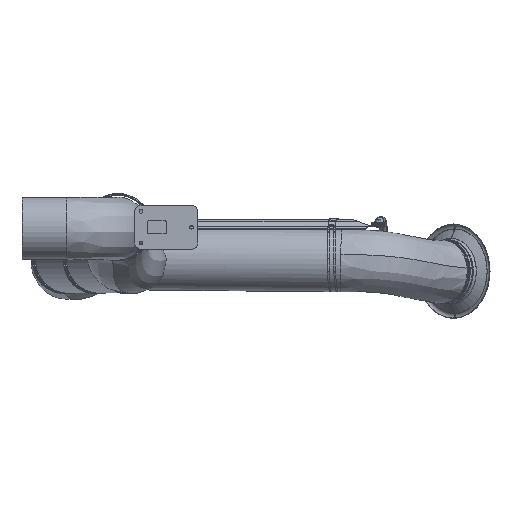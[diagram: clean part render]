
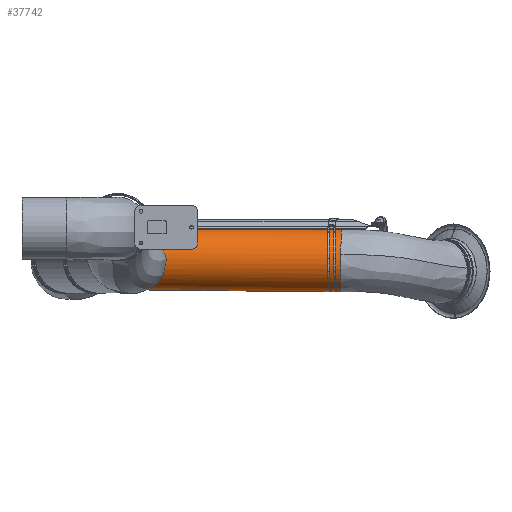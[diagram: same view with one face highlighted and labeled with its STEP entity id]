
A CAD part, left-side view. The second image highlights one B-rep face of the part: STEP entity #37742.
In plain terms, the highlighted free-form (B-spline) face has degree [3, 3] with [7, 6] control points.
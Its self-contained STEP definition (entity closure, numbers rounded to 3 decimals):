
#36774=CARTESIAN_POINT('',(1148.758,-582.743,
-201.495));
#36775=CARTESIAN_POINT('',(1148.758,-502.409,
-200.661));
#36776=CARTESIAN_POINT('',(1148.758,-341.743,
-198.995));
#36777=CARTESIAN_POINT('',(1148.758,-100.743,
-196.495));
#36778=CARTESIAN_POINT('',(1148.758,59.924,
-194.828));
#36779=CARTESIAN_POINT('',(1148.758,140.257,
-193.995));
#36784=CARTESIAN_POINT('',(1148.758,-583.78,-101.5));
#36785=DIRECTION('',(0.,-1.,-0.01));
#36786=DIRECTION('',(0.,-0.01,1.));
#36787=AXIS2_PLACEMENT_3D('',#36784,#36785,#36786);
#36792=CARTESIAN_POINT('',(1148.758,-583.78,-101.5));
#36793=DIRECTION('',(0.,-1.,-0.01));
#36794=DIRECTION('',(-0.982,-0.002,0.19));
#36795=AXIS2_PLACEMENT_3D('',#36792,#36793,#36794);
#36816=CARTESIAN_POINT('',(1148.758,-584.817,
-1.505));
#36817=CARTESIAN_POINT('',(1148.758,-504.484,
-0.672));
#36818=CARTESIAN_POINT('',(1148.758,-343.817,
0.995));
#36819=CARTESIAN_POINT('',(1148.758,-102.817,
3.495));
#36820=CARTESIAN_POINT('',(1148.758,57.849,5.161));
#36821=CARTESIAN_POINT('',(1148.758,138.183,5.995));
#37110=CARTESIAN_POINT('',(1148.758,139.22,-94.));
#37111=DIRECTION('',(0.,1.,0.01));
#37112=DIRECTION('',(0.,0.01,-1.));
#37113=AXIS2_PLACEMENT_3D('',#37110,#37111,#37112);
#37647=CARTESIAN_POINT('',(1148.758,140.257,
-193.995));
#37648=CARTESIAN_POINT('',(1148.758,138.183,5.995));
#37649=VERTEX_POINT('',#37647);
#37650=VERTEX_POINT('',#37648);
#37673=VERTEX_POINT('',#36774);
#37674=VERTEX_POINT('',#36816);
#37683=CARTESIAN_POINT('',(1050.587,-583.978,
-82.462));
#37684=VERTEX_POINT('',#37683);
#37687=CARTESIAN_POINT('',(1155.037,-597.205,
-201.447));
#37688=CARTESIAN_POINT('',(1155.037,-592.385,
-201.397));
#37689=CARTESIAN_POINT('',(1155.037,-346.565,
-198.847));
#37690=CARTESIAN_POINT('',(1155.037,-95.925,
-196.247));
#37691=CARTESIAN_POINT('',(1155.037,149.895,
-193.697));
#37692=CARTESIAN_POINT('',(1155.037,154.715,
-193.647));
#37693=CARTESIAN_POINT('',(1093.619,-597.165,
-205.311));
#37694=CARTESIAN_POINT('',(1093.619,-592.345,
-205.261));
#37695=CARTESIAN_POINT('',(1093.619,-346.525,
-202.711));
#37696=CARTESIAN_POINT('',(1093.619,-95.885,
-200.111));
#37697=CARTESIAN_POINT('',(1093.619,149.935,
-197.561));
#37698=CARTESIAN_POINT('',(1093.619,154.755,
-197.511));
#37699=CARTESIAN_POINT('',(1048.758,-597.602,
-163.187));
#37700=CARTESIAN_POINT('',(1048.758,-592.782,
-163.137));
#37701=CARTESIAN_POINT('',(1048.758,-346.962,
-160.587));
#37702=CARTESIAN_POINT('',(1048.758,-96.322,
-157.987));
#37703=CARTESIAN_POINT('',(1048.758,149.498,
-155.437));
#37704=CARTESIAN_POINT('',(1048.758,154.318,
-155.387));
#37705=CARTESIAN_POINT('',(1048.758,-598.24,-101.65));
#37706=CARTESIAN_POINT('',(1048.758,-593.42,-101.6));
#37707=CARTESIAN_POINT('',(1048.758,-347.6,-99.05));
#37708=CARTESIAN_POINT('',(1048.758,-96.96,-96.45));
#37709=CARTESIAN_POINT('',(1048.758,148.86,-93.9));
#37710=CARTESIAN_POINT('',(1048.758,153.68,-93.85));
#37711=CARTESIAN_POINT('',(1048.758,-598.878,
-40.113));
#37712=CARTESIAN_POINT('',(1048.758,-594.058,
-40.063));
#37713=CARTESIAN_POINT('',(1048.758,-348.238,
-37.513));
#37714=CARTESIAN_POINT('',(1048.758,-97.598,
-34.913));
#37715=CARTESIAN_POINT('',(1048.758,148.222,
-32.363));
#37716=CARTESIAN_POINT('',(1048.758,153.042,
-32.313));
#37717=CARTESIAN_POINT('',(1093.619,-599.315,
2.011));
#37718=CARTESIAN_POINT('',(1093.619,-594.495,
2.061));
#37719=CARTESIAN_POINT('',(1093.619,-348.675,
4.611));
#37720=CARTESIAN_POINT('',(1093.619,-98.035,
7.211));
#37721=CARTESIAN_POINT('',(1093.619,147.785,9.761));
#37722=CARTESIAN_POINT('',(1093.619,152.605,9.811));
#37723=CARTESIAN_POINT('',(1155.037,-599.275,
-1.853));
#37724=CARTESIAN_POINT('',(1155.037,-594.455,
-1.803));
#37725=CARTESIAN_POINT('',(1155.037,-348.635,
0.747));
#37726=CARTESIAN_POINT('',(1155.037,-97.995,
3.347));
#37727=CARTESIAN_POINT('',(1155.037,147.825,5.897));
#37728=CARTESIAN_POINT('',(1155.037,152.645,5.947));
#37729=(BOUNDED_SURFACE()B_SPLINE_SURFACE(3,3,((#37687,#37688,#37689,#37690,
#37691,#37692),(#37693,#37694,#37695,#37696,#37697,#37698),(#37699,#37700,
#37701,#37702,#37703,#37704),(#37705,#37706,#37707,#37708,#37709,#37710),
(#37711,#37712,#37713,#37714,#37715,#37716),(#37717,#37718,#37719,#37720,#37721,
#37722),(#37723,#37724,#37725,#37726,#37727,#37728)),.UNSPECIFIED.,.F.,.F.,.F.)B_SPLINE_SURFACE_WITH_KNOTS((4,3,4),(4,1,1,4),(0.,1.,2.),(-0.02,0.,1.,
1.02),.UNSPECIFIED.)GEOMETRIC_REPRESENTATION_ITEM()RATIONAL_B_SPLINE_SURFACE((
(1.187,1.187,1.187,1.187,
1.187,1.187),(0.938,0.938,
0.938,0.938,0.938,0.938),(
0.938,0.938,0.938,0.938,
0.938,0.938),(1.187,1.187,
1.187,1.187,1.187,1.187),(
0.938,0.938,0.938,0.938,
0.938,0.938),(0.938,0.938,
0.938,0.938,0.938,0.938),(
1.187,1.187,1.187,1.187,
1.187,1.187)))REPRESENTATION_ITEM('')SURFACE());
#37731=ORIENTED_EDGE('',*,*,#37730,.T.);
#37733=ORIENTED_EDGE('',*,*,#37732,.T.);
#37735=ORIENTED_EDGE('',*,*,#37734,.F.);
#37737=ORIENTED_EDGE('',*,*,#37736,.T.);
#37739=ORIENTED_EDGE('',*,*,#37738,.T.);
#37740=EDGE_LOOP('',(#37731,#37733,#37735,#37737,#37739));
#37741=FACE_OUTER_BOUND('',#37740,.F.);
#36780=B_SPLINE_CURVE_WITH_KNOTS('',3,(#36774,#36775,#36776,#36777,#36778,
#36779),.UNSPECIFIED.,.F.,.F.,(4,1,1,4),(0.,0.333,
0.667,1.),.UNSPECIFIED.);
#36788=CIRCLE('',#36787,100.);
#36796=CIRCLE('',#36795,100.);
#36822=B_SPLINE_CURVE_WITH_KNOTS('',3,(#36816,#36817,#36818,#36819,#36820,
#36821),.UNSPECIFIED.,.F.,.F.,(4,1,1,4),(0.,0.333,
0.667,1.),.UNSPECIFIED.);
#37114=CIRCLE('',#37113,100.);
#37730=EDGE_CURVE('',#37673,#37649,#36780,.T.);
#37732=EDGE_CURVE('',#37649,#37650,#37114,.T.);
#37734=EDGE_CURVE('',#37674,#37650,#36822,.T.);
#37736=EDGE_CURVE('',#37674,#37684,#36788,.T.);
#37738=EDGE_CURVE('',#37684,#37673,#36796,.T.);
#37742=ADVANCED_FACE('',(#37741),#37729,.T.);
